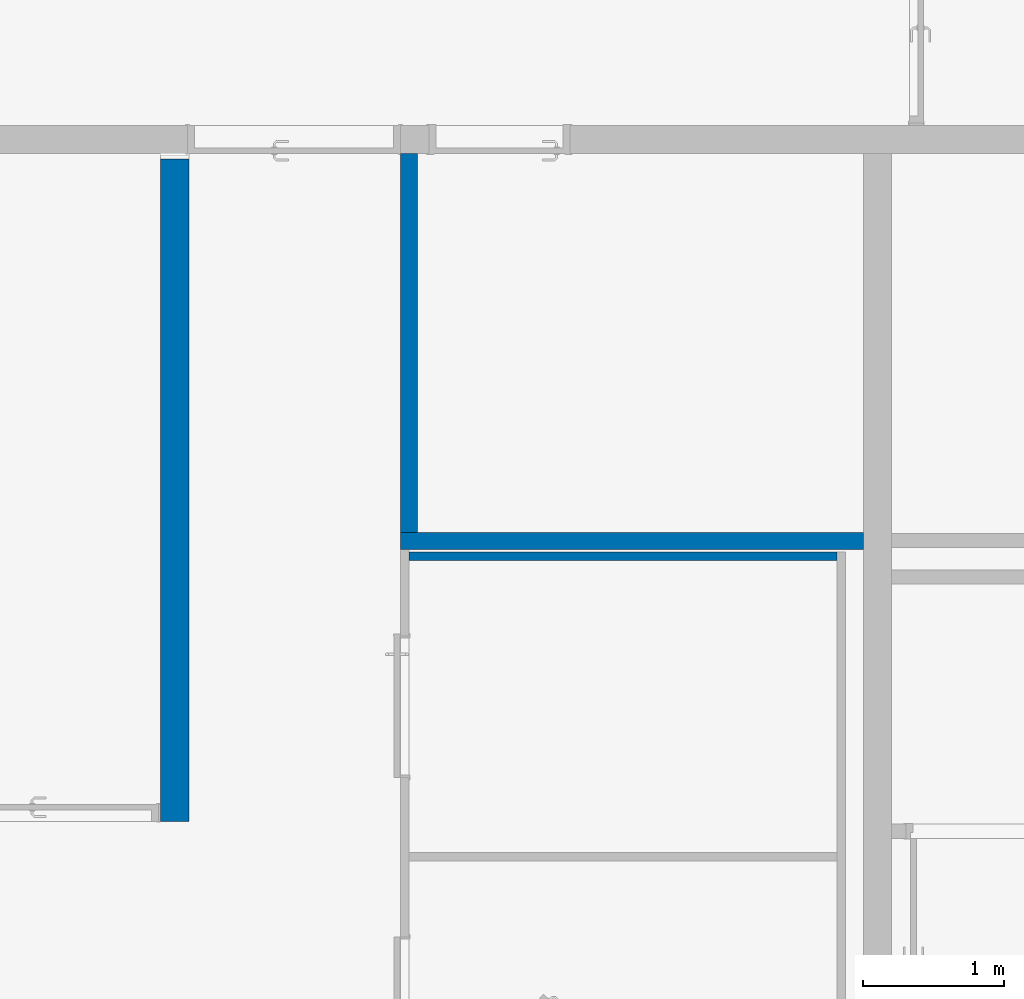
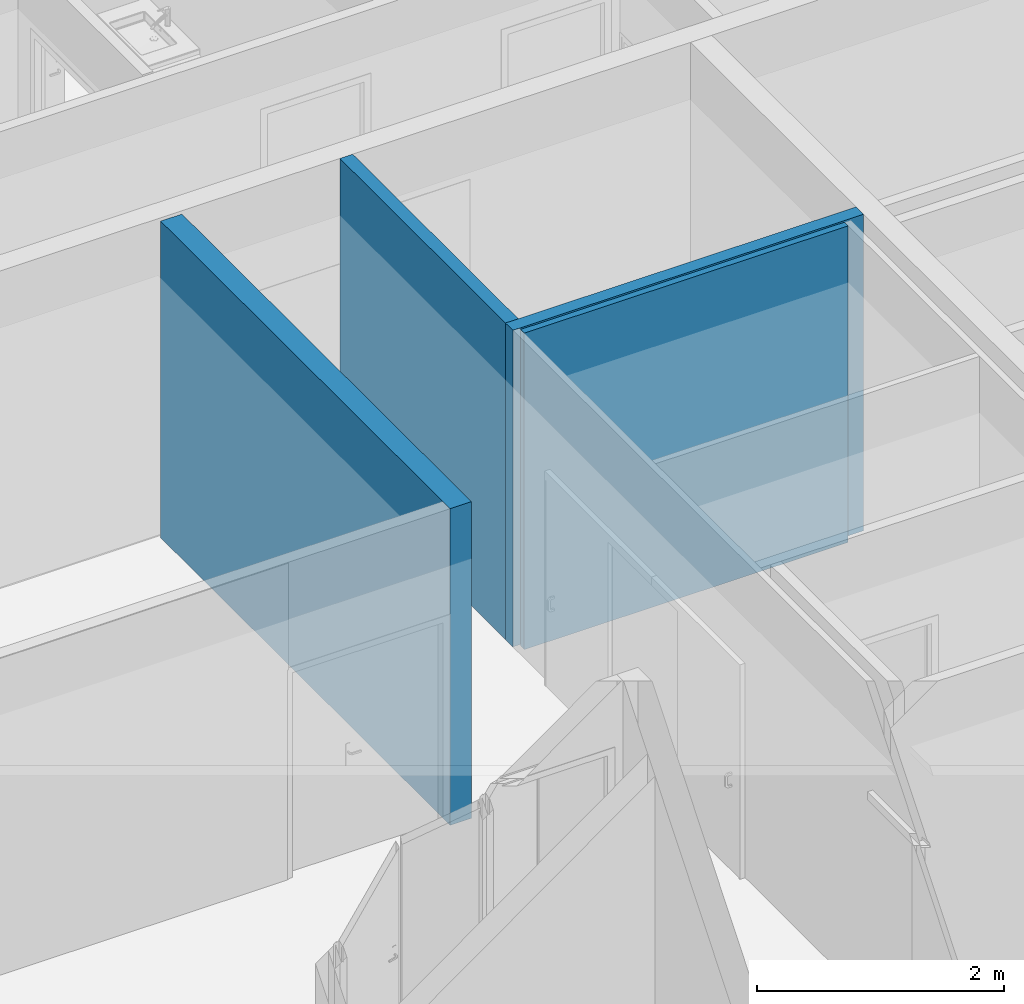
# One storey, part 101 of 240: 4 walls.
"""IFC2X3 building model written with IfcOpenShell, lengths in centimetres."""

from ifc_helpers import new_model, entity, si_unit, converted_unit, derived_unit, direction, frame, frame_2d, origin, place, context, subcontext, project, spatial, rectangle, extrude, material, layer, layer_set, layer_usage, type_object, element, save


model = new_model("IFC2X3")

# Units and contexts
model_context = context("Model", 3, precision=0.001, world=origin(), true_north=direction((6.12303176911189e-17, 1.0)))
body_context = subcontext(model_context, "Body", "Model", "MODEL_VIEW")
ifc_project = project(units=[si_unit("LENGTHUNIT", "METRE", prefix="CENTI"), si_unit("AREAUNIT", "SQUARE_METRE"), si_unit("VOLUMEUNIT", "CUBIC_METRE"), converted_unit("PLANEANGLEUNIT", "DEGREE", entity("IfcRatioMeasure", 0.0174532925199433), si_unit("PLANEANGLEUNIT", "RADIAN"), dimensions=[0, 0, 0, 0, 0, 0, 0]), si_unit("MASSUNIT", "GRAM", prefix="KILO"), derived_unit("MASSDENSITYUNIT", [(si_unit("MASSUNIT", "GRAM", prefix="KILO"), 1), (si_unit("LENGTHUNIT", "METRE"), -3)]), si_unit("TIMEUNIT", "SECOND"), si_unit("FREQUENCYUNIT", "HERTZ"), si_unit("THERMODYNAMICTEMPERATUREUNIT", "DEGREE_CELSIUS"), derived_unit("THERMALTRANSMITTANCEUNIT", [(si_unit("MASSUNIT", "GRAM", prefix="KILO"), 1), (si_unit("THERMODYNAMICTEMPERATUREUNIT", "KELVIN"), -1), (si_unit("TIMEUNIT", "SECOND"), -3)]), derived_unit("VOLUMETRICFLOWRATEUNIT", [(si_unit("LENGTHUNIT", "METRE"), 3), (si_unit("TIMEUNIT", "SECOND"), -1)]), si_unit("ELECTRICCURRENTUNIT", "AMPERE"), si_unit("ELECTRICVOLTAGEUNIT", "VOLT"), si_unit("POWERUNIT", "WATT"), si_unit("FORCEUNIT", "NEWTON", prefix="KILO"), si_unit("ILLUMINANCEUNIT", "LUX"), si_unit("LUMINOUSFLUXUNIT", "LUMEN"), si_unit("LUMINOUSINTENSITYUNIT", "CANDELA"), derived_unit("USERDEFINED", [(si_unit("MASSUNIT", "GRAM", prefix="KILO"), -1), (si_unit("LENGTHUNIT", "METRE"), -2), (si_unit("TIMEUNIT", "SECOND"), 3), (si_unit("LUMINOUSFLUXUNIT", "LUMEN"), 1)]), derived_unit("LINEARVELOCITYUNIT", [(si_unit("LENGTHUNIT", "METRE"), 1), (si_unit("TIMEUNIT", "SECOND"), -1)]), si_unit("PRESSUREUNIT", "PASCAL"), derived_unit("USERDEFINED", [(si_unit("LENGTHUNIT", "METRE"), -2), (si_unit("MASSUNIT", "GRAM", prefix="KILO"), 1), (si_unit("TIMEUNIT", "SECOND"), -2)])], contexts=[model_context])

# Site, building, storey
site_placement = place(None, frame((-2781.94577612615, 7442.24238424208, 0.0)))
site = spatial("IfcSite", under=ifc_project, at=site_placement, Name="Default", CompositionType="ELEMENT")
building_placement = place(site_placement, origin())
building = spatial("IfcBuilding", under=site, at=building_placement, CompositionType="ELEMENT")
storey_placement = place(building_placement, origin())
storey = spatial("IfcBuildingStorey", under=building, at=storey_placement, Name="N00 - COO", CompositionType="ELEMENT", Elevation=0.0)

# Walls
ifc_material_1 = material(Name="01 - Maçonnerie")
ifc_layer_1 = layer(ifc_material_1, 20.0)
ifc_layer_set_1 = layer_set([ifc_layer_1], Name="Mur de base:04 - Structure - béton - 20cm")
ifc_layer_usage_1 = layer_usage(ifc_layer_set_1, "AXIS2", "NEGATIVE", 10.0)
wall_type_1 = type_object("IfcWallType", Name="Mur de base:04 - Structure - béton - 20cm", PredefinedType="STANDARD", material=ifc_layer_set_1)
wall_1_placement = place(building_placement, frame((-10184.834550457, -2403.07903364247, 0.0), z_axis=(0.0, 0.0, 1.0), x_axis=(0.0, 1.0, 0.0)))
element("IfcWallStandardCase", 1, at=wall_1_placement, inside=storey, type_object=wall_type_1, material=ifc_layer_usage_1, Name="Mur de base:04 - Structure - béton - 20cm", ObjectType="Mur de base:04 - Structure - béton - 20cm", context=body_context, shape_type="SweptSolid", body=[
    extrude(rectangle(XDim=469.0, YDim=19.9999999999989, at=frame_2d((234.5, 0.0), x_axis=(-1.0, 0.0))), origin(), (0.0, 0.0, 1.0), 313.0),
])
ifc_material_2 = material(Name="01 - Enduit/Plâtre")
ifc_layer_2 = layer(ifc_material_2, 1.0)
ifc_material_3 = material(Name="Maçonnerie - Béton")
ifc_layer_3 = layer(ifc_material_3, 10.0)
ifc_layer_4 = layer(ifc_material_2, 1.0)
ifc_layer_set_2 = layer_set([ifc_layer_2, ifc_layer_3, ifc_layer_4], Name="Mur de base:06 - cloisons - agglos10 + faïence 12cm")
ifc_layer_usage_2 = layer_usage(ifc_layer_set_2, "AXIS2", "NEGATIVE", 6.0)
wall_type_2 = type_object("IfcWallType", Name="Mur de base:06 - cloisons - agglos10 + faïence 12cm", PredefinedType="STANDARD", material=ifc_layer_set_2)
wall_2_placement = place(storey_placement, frame((-10024.8332725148, -2204.35320515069, 0.0)))
element("IfcWallStandardCase", 2, at=wall_2_placement, inside=storey, type_object=wall_type_2, material=ifc_layer_usage_2, Name="Mur de base:06 - cloisons - agglos10 + faïence 12cm", ObjectType="Mur de base:06 - cloisons - agglos10 + faïence 12cm", context=body_context, shape_type="SweptSolid", body=[
    extrude(rectangle(XDim=327.833275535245, YDim=11.9999999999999, at=frame_2d((163.916637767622, 3.64153152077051e-14), x_axis=(-1.0, 0.0))), origin(), (0.0, 0.0, 1.0), 313.0),
])
ifc_layer_usage_3 = layer_usage(ifc_layer_set_2, "AXIS2", "NEGATIVE", 6.0)
wall_3_placement = place(building_placement, frame((-10018.8332725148, -1930.07903364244, 0.0), z_axis=(0.0, 0.0, 1.0), x_axis=(0.0, -1.0, 0.0)))
element("IfcWallStandardCase", 3, at=wall_3_placement, inside=storey, type_object=wall_type_2, material=ifc_layer_usage_3, Name="Mur de base:06 - cloisons - agglos10 + faïence 12cm", ObjectType="Mur de base:06 - cloisons - agglos10 + faïence 12cm", context=body_context, shape_type="SweptSolid", body=[
    extrude(rectangle(XDim=268.274171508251, YDim=12.0000000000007, at=frame_2d((134.137085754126, 0.0), x_axis=(-1.0, 0.0))), origin(), (0.0, 0.0, 1.0), 313.00000000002),
])
ifc_material_4 = material(Name="Plastique, blanc opaque")
ifc_layer_5 = layer(ifc_material_4, 0.2)
ifc_material_5 = material(Name="00 - Isolant cloison Frigo")
ifc_layer_6 = layer(ifc_material_5, 5.6)
ifc_layer_7 = layer(ifc_material_4, 0.2)
ifc_layer_set_3 = layer_set([ifc_layer_5, ifc_layer_6, ifc_layer_7], Name="Mur de base:06 - cloisons - cuisine 6cm")
ifc_layer_usage_4 = layer_usage(ifc_layer_set_3, "AXIS2", "NEGATIVE", 3.0)
wall_type_3 = type_object("IfcWallType", Name="Mur de base:06 - cloisons - cuisine 6cm", PredefinedType="STANDARD", material=ifc_layer_set_3)
wall_4_placement = place(building_placement, frame((-9715.84156047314, -2215.35320618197, 0.0), z_axis=(0.0, 0.0, 1.0), x_axis=(-1.0, 0.0, 0.0)))
element("IfcWallStandardCase", 4, at=wall_4_placement, inside=storey, type_object=wall_type_3, material=ifc_layer_usage_4, Name="Mur de base:06 - cloisons - cuisine 6cm", ObjectType="Mur de base:06 - cloisons - cuisine 6cm", context=body_context, shape_type="SweptSolid", body=[
    extrude(rectangle(XDim=303.00019647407, YDim=6.00000000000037, at=frame_2d((151.500098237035, -8.65973959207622e-15), x_axis=(-1.0, 0.0))), origin(), (0.0, 0.0, 1.0), 313.00000000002),
])

save(model, "model.ifc")
